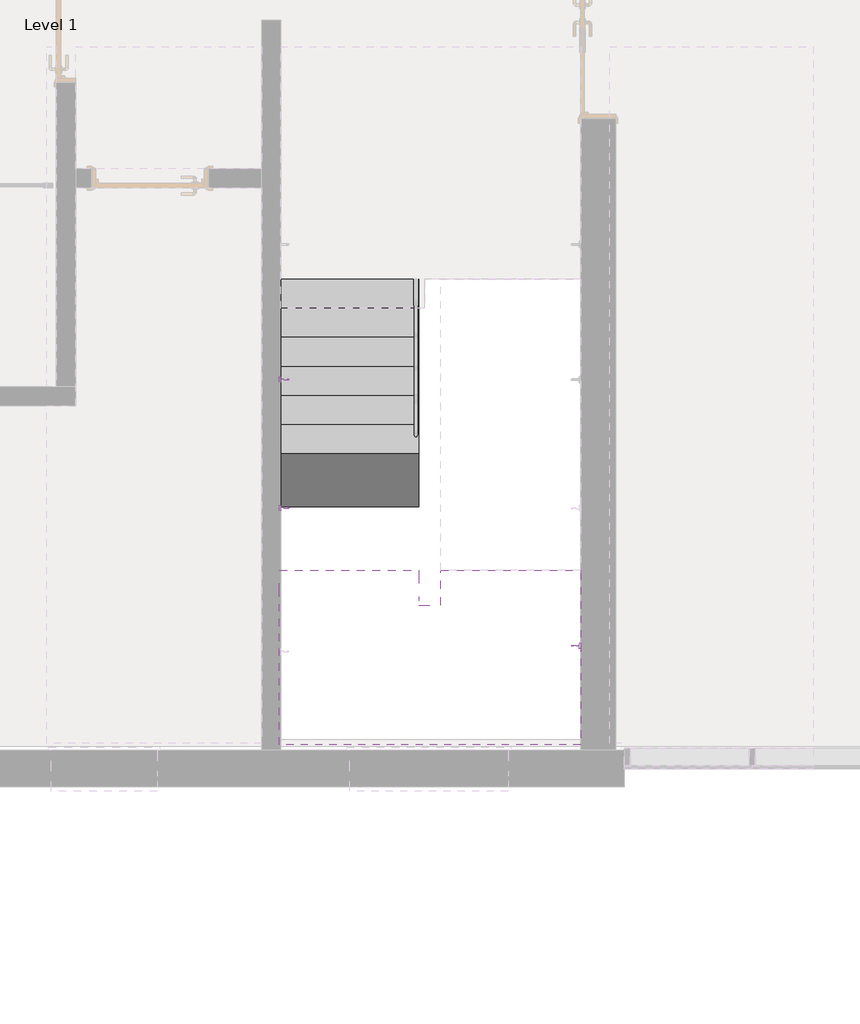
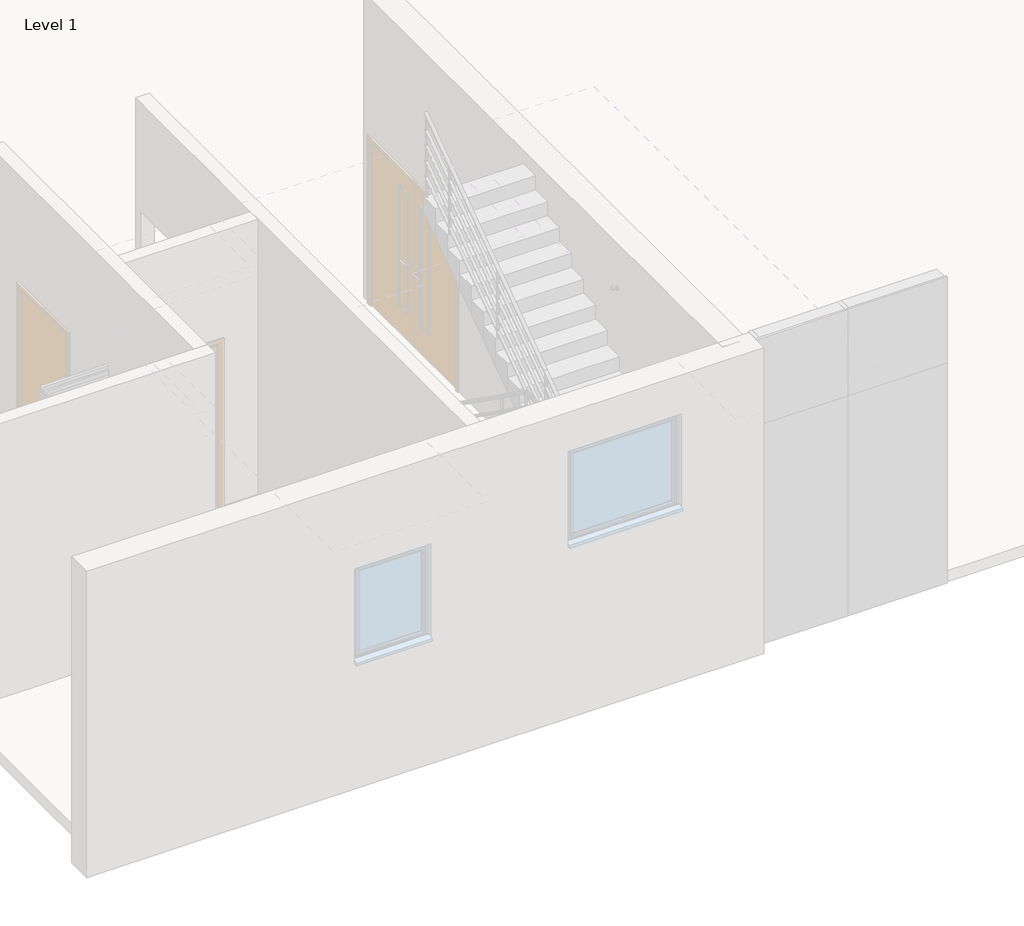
# One storey, part 8 of 12: 3 proxies, 1 slab, 1 stair flight.
"""IFC4 building model written with IfcOpenShell, lengths in millimetres."""

from ifc_helpers import new_model, si_unit, frame, origin, place, context, project, spatial, polyline, outline, extrude, faceted_brep, transform, mapped, element, save
from components import support_metal_circular_support_metal_circular_016e83f0

model = new_model("IFC4")

# Units and contexts
model_context = context("Model", 3, world=origin())
ifc_project = project(units=[si_unit("LENGTHUNIT", "METRE", prefix="MILLI")], contexts=[model_context])

# Site, building, storey
site = spatial("IfcSite", under=ifc_project)
building = spatial("IfcBuilding", under=site)
storey = spatial("IfcBuildingStorey", under=building, Name="Level 1", Elevation=3900.0)

# Proxies
placement = place(None, origin())
support_metal_circular_support_metal_circular_shape = support_metal_circular_support_metal_circular_016e83f0(model_context)
element("IfcBuildingElementProxy", 1, Name="Support - Metal - Circular : Support - Metal - Circular", ObjectType="Support - Metal - Circular : Support - Metal - Circular", at=placement, inside=storey, context=model_context, shape_type="MappedRepresentation", body=[
    mapped(support_metal_circular_support_metal_circular_shape, transform((5322.6000025, 3439.4755703, 5569.5820057), x_axis=(0.0, 1.0, 0.0), y_axis=(-1.0, 0.0, 0.0), z_axis=(0.0, 0.0, 1.0))),
])
element("IfcBuildingElementProxy", 2, Name="Support - Metal - Circular : Support - Metal - Circular", ObjectType="Support - Metal - Circular : Support - Metal - Circular", at=placement, inside=storey, context=model_context, shape_type="MappedRepresentation", body=[
    mapped(support_metal_circular_support_metal_circular_shape, transform((5322.6000025, 2334.2312733, 6353.300689), x_axis=(0.0, 1.0, 0.0), y_axis=(-1.0, 0.0, 0.0), z_axis=(0.0, 0.0, 1.0))),
])
element("IfcBuildingElementProxy", 3, Name="Support - Metal - Circular : Support - Metal - Circular", ObjectType="Support - Metal - Circular : Support - Metal - Circular", at=placement, inside=storey, context=model_context, shape_type="MappedRepresentation", body=[
    mapped(support_metal_circular_support_metal_circular_shape, transform((7761.8000024, 1150.0, 6732.1192282), x_axis=(0.0, -1.0, 0.0), y_axis=(1.0, 0.0, 0.0), z_axis=(0.0, 0.0, 1.0))),
])

# Slab
element("IfcSlab", 4, ObjectType="200mm_Thickness", at=placement, inside=storey, context=model_context, shape_type="SolidModel", body=[
    faceted_brep([(6447.2000025, 1800.0, 5849.0), (5247.2000025, 1800.0, 5849.0), (5247.2000025, 1572.7280846, 5849.0), (5247.2000025, 300.0000001, 5849.0), (7837.2000024, 300.0000001, 5849.0), (7837.2000024, 1777.2719153, 5849.0), (7837.2000024, 1800.0, 5849.0), (6637.2000026, 1800.0, 5849.0), (6637.2000026, 1777.2719153, 5849.0), (6637.2000026, 1500.0, 5849.0), (6447.2000025, 1500.0, 5849.0), (6447.2000025, 1572.7280846, 5849.0), (6447.2000025, 1800.0, 5487.8435509), (6447.2000025, 1800.0, 5671.7272727), (6447.2000025, 1500.0, 5649.0), (6447.2000025, 1572.7280846, 5649.0), (5247.2000025, 1800.0, 5671.7272727), (5247.2000025, 1800.0, 5487.8435509), (5247.2000025, 1572.7280846, 5649.0), (5247.2000025, 300.0000001, 5649.0), (6637.2000026, 1800.0, 5665.1162782), (6637.2000026, 1777.2719153, 5649.0), (6637.2000026, 1500.0, 5649.0), (7837.2000024, 1777.2719153, 5649.0), (7837.2000024, 300.0000001, 5649.0), (7837.2000024, 1800.0, 5665.1162782)], [[[0, 1, 2, 3, 4, 5, 6, 7, 8, 9, 10, 11]], [[12, 13, 0, 11, 10, 14, 15]], [[1, 16, 17, 18, 19, 3, 2]], [[7, 20, 21, 22, 9, 8]], [[18, 15, 14, 22, 21, 23, 24, 19]], [[15, 18, 17, 12]], [[23, 21, 20, 25]], [[1, 0, 13, 12, 17, 16]], [[4, 3, 19, 24]], [[4, 24, 23, 25, 6, 5]], [[7, 6, 25, 20]], [[10, 9, 22, 14]]]),
    extrude(outline(polyline([(6447.2000025, 1800.0), (6447.2000025, 1500.0), (6637.2000026, 1500.0), (6637.2000026, 1800.0), (7837.2000024, 1800.0), (7837.2000024, 300.0000001), (5247.2000025, 300.0000001), (5247.2000025, 1800.0), (6447.2000025, 1800.0)])), frame((0.0, 0.0, 5849.0), z_axis=(0.0, 0.0, 1.0), x_axis=(1.0, 0.0, 0.0)), (0.0, 0.0, 1.0), 1.0),
])

# Stair flight
element("IfcStairFlight", 5, ObjectType="1mm_Tread-150mm_Depth", at=placement, inside=storey, context=model_context, shape_type="SolidModel", body=[
    faceted_brep([(6447.2000025, 4050.0, 4076.2727273), (6447.2000025, 4300.0, 4076.2727273), (5247.2000025, 4300.0, 4076.2727273), (5247.2000025, 4050.0, 4076.2727273), (6447.2000025, 4050.0, 3900.0), (6447.2000025, 4300.0, 3900.0), (5247.2000025, 4300.0, 3900.0), (5247.2000025, 4050.0, 3900.0), (6447.2000025, 3800.0, 4253.5454545), (6447.2000025, 4050.0, 4253.5454545), (5247.2000025, 4050.0, 4253.5454545), (5247.2000025, 3800.0, 4253.5454545), (6447.2000025, 3800.0, 4069.6617328), (6447.2000025, 4039.2665462, 3900.0), (5247.2000025, 4039.2665462, 3900.0), (5247.2000025, 3800.0, 4069.6617328), (6447.2000025, 3550.0, 4430.8181818), (6447.2000025, 3800.0, 4430.8181818), (5247.2000025, 3800.0, 4430.8181818), (5247.2000025, 3550.0, 4430.8181818), (6447.2000025, 3550.0, 4246.93446), (5247.2000025, 3550.0, 4246.93446), (6447.2000025, 3300.0, 4608.0909091), (6447.2000025, 3550.0, 4608.0909091), (5247.2000025, 3550.0, 4608.0909091), (5247.2000025, 3300.0, 4608.0909091), (6447.2000025, 3300.0, 4424.2071873), (5247.2000025, 3300.0, 4424.2071873), (6447.2000025, 3050.0, 4785.3636364), (6447.2000025, 3300.0, 4785.3636364), (5247.2000025, 3300.0, 4785.3636364), (5247.2000025, 3050.0, 4785.3636364), (6447.2000025, 3050.0, 4601.4799146), (5247.2000025, 3050.0, 4601.4799146), (6447.2000025, 2800.0, 4962.6363636), (6447.2000025, 3050.0, 4962.6363636), (5247.2000025, 3050.0, 4962.6363636), (5247.2000025, 2800.0, 4962.6363636), (6447.2000025, 2800.0, 4778.7526418), (5247.2000025, 2800.0, 4778.7526418), (6447.2000025, 2550.0, 5139.9090909), (6447.2000025, 2800.0, 5139.9090909), (5247.2000025, 2800.0, 5139.9090909), (5247.2000025, 2550.0, 5139.9090909), (6447.2000025, 2550.0, 4956.0253691), (5247.2000025, 2550.0, 4956.0253691), (6447.2000025, 2300.0, 5317.1818182), (6447.2000025, 2550.0, 5317.1818182), (5247.2000025, 2550.0, 5317.1818182), (5247.2000025, 2300.0, 5317.1818182), (6447.2000025, 2300.0, 5133.2980964), (5247.2000025, 2300.0, 5133.2980964), (6447.2000025, 2050.0, 5494.4545455), (6447.2000025, 2300.0, 5494.4545455), (5247.2000025, 2300.0, 5494.4545455), (5247.2000025, 2050.0, 5494.4545455), (6447.2000025, 2050.0, 5310.5708237), (5247.2000025, 2050.0, 5310.5708237), (6447.2000025, 1800.0, 5487.8435509), (5247.2000025, 1800.0, 5487.8435509), (6447.2000025, 1800.0, 5671.7272727), (6447.2000025, 2050.0, 5671.7272727), (5247.2000025, 2050.0, 5671.7272727), (5247.2000025, 1800.0, 5671.7272727)], [[[0, 1, 2, 3]], [[1, 0, 4, 5]], [[2, 1, 5, 6]], [[3, 2, 6, 7]], [[8, 9, 10, 11]], [[4, 0, 9, 8, 12, 13]], [[0, 3, 10, 9]], [[3, 7, 14, 15, 11, 10]], [[16, 17, 18, 19]], [[17, 16, 20, 12, 8]], [[8, 11, 18, 17]], [[19, 18, 11, 15, 21]], [[22, 23, 24, 25]], [[23, 22, 26, 20, 16]], [[16, 19, 24, 23]], [[25, 24, 19, 21, 27]], [[28, 29, 30, 31]], [[29, 28, 32, 26, 22]], [[22, 25, 30, 29]], [[31, 30, 25, 27, 33]], [[34, 35, 36, 37]], [[35, 34, 38, 32, 28]], [[28, 31, 36, 35]], [[37, 36, 31, 33, 39]], [[40, 41, 42, 43]], [[41, 40, 44, 38, 34]], [[34, 37, 42, 41]], [[43, 42, 37, 39, 45]], [[46, 47, 48, 49]], [[47, 46, 50, 44, 40]], [[40, 43, 48, 47]], [[49, 48, 43, 45, 51]], [[52, 53, 54, 55]], [[53, 52, 56, 50, 46]], [[46, 49, 54, 53]], [[55, 54, 49, 51, 57]], [[5, 4, 13, 14, 7, 6]], [[14, 13, 12, 20, 26, 32, 38, 44, 50, 56, 58, 59, 57, 51, 45, 39, 33, 27, 21, 15]], [[60, 61, 62, 63]], [[61, 60, 58, 56, 52]], [[52, 55, 62, 61]], [[63, 62, 55, 57, 59]], [[60, 63, 59, 58]]]),
    extrude(outline(polyline([(6447.2000025, 4050.0), (5247.2000025, 4050.0), (5247.2000025, 4300.0), (6447.2000025, 4300.0), (6447.2000025, 4050.0)])), frame((0.0, 0.0, 4076.2727273), z_axis=(0.0, 0.0, 1.0), x_axis=(1.0, 0.0, 0.0)), (0.0, 0.0, 1.0), 1.0),
    extrude(outline(polyline([(6447.2000025, 3800.0), (5247.2000025, 3800.0), (5247.2000025, 4050.0), (6447.2000025, 4050.0), (6447.2000025, 3800.0)])), frame((0.0, 0.0, 4253.5454545), z_axis=(0.0, 0.0, 1.0), x_axis=(1.0, 0.0, 0.0)), (0.0, 0.0, 1.0), 1.0),
    extrude(outline(polyline([(6447.2000025, 3550.0), (5247.2000025, 3550.0), (5247.2000025, 3800.0), (6447.2000025, 3800.0), (6447.2000025, 3550.0)])), frame((0.0, 0.0, 4430.8181818), z_axis=(0.0, 0.0, 1.0), x_axis=(1.0, 0.0, 0.0)), (0.0, 0.0, 1.0), 1.0),
    extrude(outline(polyline([(6447.2000025, 3300.0), (5247.2000025, 3300.0), (5247.2000025, 3550.0), (6447.2000025, 3550.0), (6447.2000025, 3300.0)])), frame((0.0, 0.0, 4608.0909091), z_axis=(0.0, 0.0, 1.0), x_axis=(1.0, 0.0, 0.0)), (0.0, 0.0, 1.0), 1.0),
    extrude(outline(polyline([(6447.2000025, 3050.0), (5247.2000025, 3050.0), (5247.2000025, 3300.0), (6447.2000025, 3300.0), (6447.2000025, 3050.0)])), frame((0.0, 0.0, 4785.3636364), z_axis=(0.0, 0.0, 1.0), x_axis=(1.0, 0.0, 0.0)), (0.0, 0.0, 1.0), 1.0),
    extrude(outline(polyline([(6447.2000025, 2800.0), (5247.2000025, 2800.0), (5247.2000025, 3050.0), (6447.2000025, 3050.0), (6447.2000025, 2800.0)])), frame((0.0, 0.0, 4962.6363636), z_axis=(0.0, 0.0, 1.0), x_axis=(1.0, 0.0, 0.0)), (0.0, 0.0, 1.0), 1.0),
    extrude(outline(polyline([(6447.2000025, 2550.0), (5247.2000025, 2550.0), (5247.2000025, 2800.0), (6447.2000025, 2800.0), (6447.2000025, 2550.0)])), frame((0.0, 0.0, 5139.9090909), z_axis=(0.0, 0.0, 1.0), x_axis=(1.0, 0.0, 0.0)), (0.0, 0.0, 1.0), 1.0),
    extrude(outline(polyline([(6447.2000025, 2300.0), (5247.2000025, 2300.0), (5247.2000025, 2550.0), (6447.2000025, 2550.0), (6447.2000025, 2300.0)])), frame((0.0, 0.0, 5317.1818182), z_axis=(0.0, 0.0, 1.0), x_axis=(1.0, 0.0, 0.0)), (0.0, 0.0, 1.0), 1.0),
    extrude(outline(polyline([(6447.2000025, 2050.0), (5247.2000025, 2050.0), (5247.2000025, 2300.0), (6447.2000025, 2300.0), (6447.2000025, 2050.0)])), frame((0.0, 0.0, 5494.4545455), z_axis=(0.0, 0.0, 1.0), x_axis=(1.0, 0.0, 0.0)), (0.0, 0.0, 1.0), 1.0),
    extrude(outline(polyline([(6447.2000025, 1800.0), (5247.2000025, 1800.0), (5247.2000025, 2050.0), (6447.2000025, 2050.0), (6447.2000025, 1800.0)])), frame((0.0, 0.0, 5671.7272727), z_axis=(0.0, 0.0, 1.0), x_axis=(1.0, 0.0, 0.0)), (0.0, 0.0, 1.0), 1.0),
])

save(model, "model.ifc")
